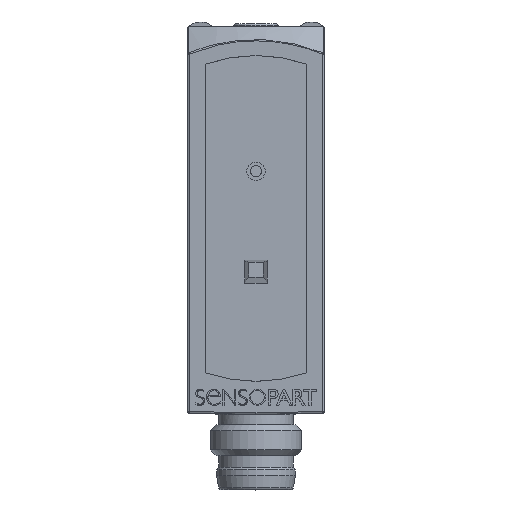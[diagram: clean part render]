
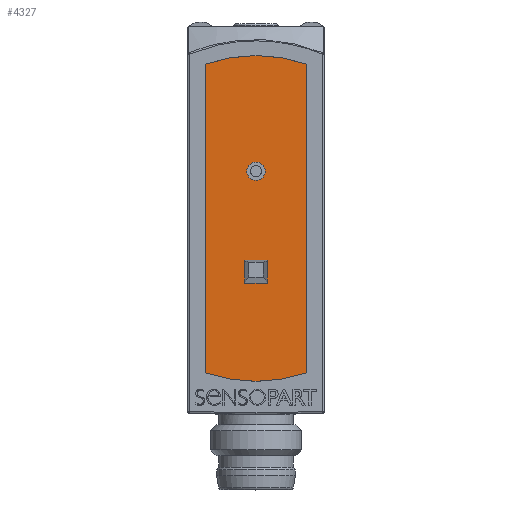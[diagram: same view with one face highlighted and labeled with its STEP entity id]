
A CAD part, top view. The second image highlights one B-rep face of the part: STEP entity #4327.
In plain terms, the highlighted planar face has unit normal (0, -0.018, 1).
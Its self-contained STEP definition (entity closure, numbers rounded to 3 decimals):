
#247=LINE('',#6321,#593);
#248=LINE('',#6325,#594);
#593=VECTOR('',#5076,10.);
#594=VECTOR('',#5079,10.);
#966=FACE_OUTER_BOUND('',#1233,.T.);
#1233=EDGE_LOOP('',(#2710,#2711,#2712,#2713));
#1525=CIRCLE('',#4621,13.65);
#1526=CIRCLE('',#4622,13.65);
#1716=VERTEX_POINT('',#6319);
#1717=VERTEX_POINT('',#6320);
#1718=VERTEX_POINT('',#6322);
#1719=VERTEX_POINT('',#6324);
#2094=EDGE_CURVE('',#1716,#1717,#247,.T.);
#2095=EDGE_CURVE('',#1718,#1717,#1525,.T.);
#2096=EDGE_CURVE('',#1718,#1719,#248,.T.);
#2097=EDGE_CURVE('',#1719,#1716,#1526,.T.);
#2710=ORIENTED_EDGE('',*,*,#2094,.T.);
#2711=ORIENTED_EDGE('',*,*,#2095,.F.);
#2712=ORIENTED_EDGE('',*,*,#2096,.T.);
#2713=ORIENTED_EDGE('',*,*,#2097,.T.);
#3941=PLANE('',#4620);
#4327=ADVANCED_FACE('',(#966),#3941,.F.);
#4620=AXIS2_PLACEMENT_3D('',#6318,#5074,#5075);
#4621=AXIS2_PLACEMENT_3D('',#6323,#5077,#5078);
#4622=AXIS2_PLACEMENT_3D('',#6326,#5080,#5081);
#5074=DIRECTION('center_axis',(0.,0.017,
-1.));
#5075=DIRECTION('ref_axis',(0.,-1.,-0.017));
#5076=DIRECTION('',(0.,-1.,-0.017));
#5077=DIRECTION('center_axis',(0.,0.017,
-1.));
#5078=DIRECTION('ref_axis',(-0.326,-0.945,-0.016));
#5079=DIRECTION('',(0.,1.,0.017));
#5080=DIRECTION('center_axis',(0.,-0.017,
1.));
#5081=DIRECTION('ref_axis',(0.326,0.945,0.016));
#6318=CARTESIAN_POINT('Origin',(0.,17.172,0.193));
#6319=CARTESIAN_POINT('',(-4.45,30.698,0.429));
#6320=CARTESIAN_POINT('',(-4.45,3.644,-0.043));
#6321=CARTESIAN_POINT('',(-4.45,23.936,0.311));
#6322=CARTESIAN_POINT('',(4.45,3.644,-0.043));
#6323=CARTESIAN_POINT('Origin',(0.,16.546,
0.182));
#6324=CARTESIAN_POINT('',(4.45,30.698,0.429));
#6325=CARTESIAN_POINT('',(4.45,10.408,0.075));
#6326=CARTESIAN_POINT('Origin',(0.,17.796,
0.204));
